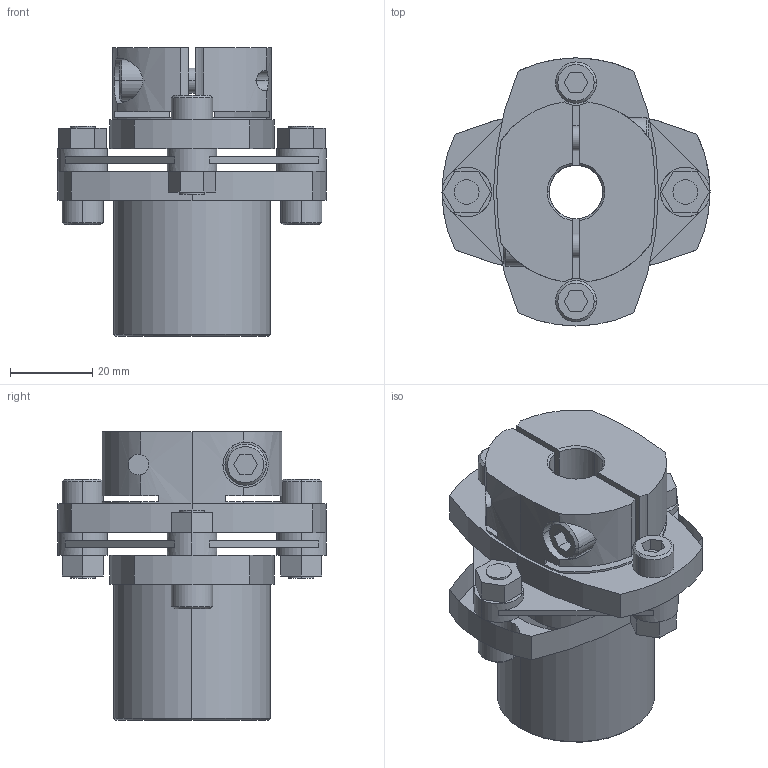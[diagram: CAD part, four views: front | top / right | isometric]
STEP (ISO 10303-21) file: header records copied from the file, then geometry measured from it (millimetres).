
FILE_DESCRIPTION((''),'2;1');
FILE_NAME('LCS-65M-16L亊13B.stp','2015-10-28T03:05:20',(''),(''),'AutoCAD STEP 2000i','AutoCAD 2000i',', , ');
FILE_SCHEMA(('CONFIG_CONTROL_DESIGN'));
Length unit declared in the file: millimetre
Products named in the file (7): LCS-65M-16L×14B; 忣兜1; LC65M-L016; LC65M-L011; LC65-B014-1; LC65-B014; LCS65-ITA
Assembly tree (6 placements, depth 2):
  LCS-65M-16L×14B
    忣兜1
    LC65M-L016
    LC65M-L011
    LC65-B014-1
    LC65-B014
    LCS65-ITA
Bounding box: 65 x 65 x 70 mm (x, y, z)
Volume: 84279.8 mm3; surface area: 29647.9 mm2
Topology: 1 solids, 1 shells, 222 faces, 582 edges, 380 vertices
Faces by surface type: plane 115, cylinder 84, cone 23
Entity records: 7375 total; most frequent: CARTESIAN_POINT 1531, DIRECTION 1242, ORIENTED_EDGE 1164, EDGE_CURVE 582, AXIS2_PLACEMENT_3D 453, VERTEX_POINT 380, VECTOR 336, LINE 336
